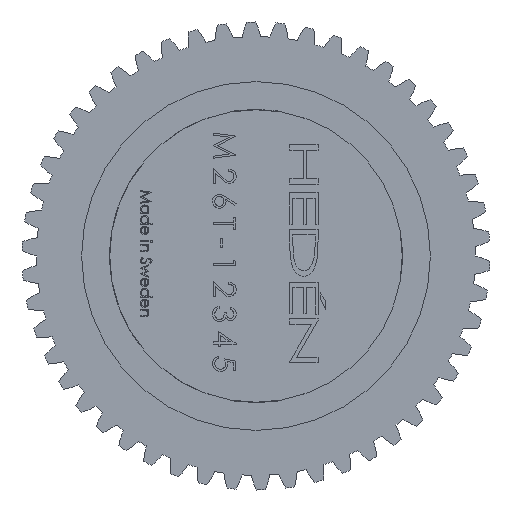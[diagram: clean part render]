
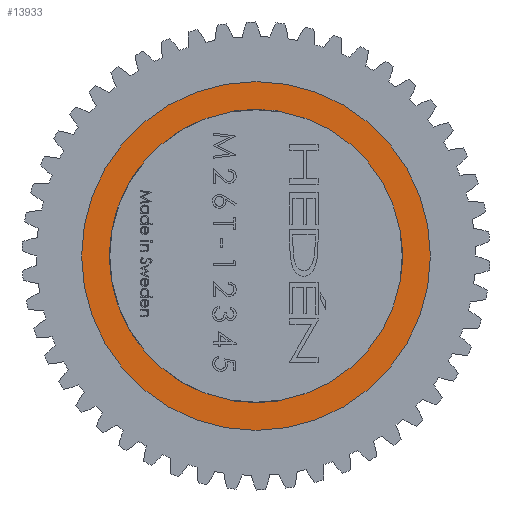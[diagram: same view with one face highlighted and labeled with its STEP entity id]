
A CAD part, front view. The second image highlights one B-rep face of the part: STEP entity #13933.
In plain terms, the highlighted planar face has unit normal (0, -1, 0).
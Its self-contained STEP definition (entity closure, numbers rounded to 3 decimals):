
#748 = CARTESIAN_POINT ( 'NONE',  ( 4.9, 43.25, 8.487 ) ) ;
#1275 = PLANE ( 'NONE',  #3564 ) ;
#1581 = EDGE_LOOP ( 'NONE', ( #8924 ) ) ;
#1692 = CARTESIAN_POINT ( 'NONE',  ( 0., 43.25, 0. ) ) ;
#2217 = CARTESIAN_POINT ( 'NONE',  ( -4.1, 43.25, -8.487 ) ) ;
#2282 = CARTESIAN_POINT ( 'NONE',  ( -9.8, 43.25, 0. ) ) ;
#2432 = AXIS2_PLACEMENT_3D ( 'NONE', #748, #36294, #26759 ) ;
#3282 = CIRCLE ( 'NONE', #20901, 0.8 ) ;
#3564 = AXIS2_PLACEMENT_3D ( 'NONE', #11979, #8746, #34230 ) ;
#3791 = FACE_BOUND ( 'NONE', #22629, .T. ) ;
#4070 = EDGE_LOOP ( 'NONE', ( #26069 ) ) ;
#4869 = DIRECTION ( 'NONE',  ( 0., -1., 0. ) ) ;
#4886 = AXIS2_PLACEMENT_3D ( 'NONE', #2282, #37847, #8490 ) ;
#6326 = EDGE_LOOP ( 'NONE', ( #18250 ) ) ;
#6429 = CIRCLE ( 'NONE', #37480, 5. ) ;
#7613 = CIRCLE ( 'NONE', #2432, 3. ) ;
#7937 = EDGE_CURVE ( 'NONE', #22809, #22809, #22165, .T. ) ;
#8133 = CARTESIAN_POINT ( 'NONE',  ( 9.8, 43.25, 0. ) ) ;
#8490 = DIRECTION ( 'NONE',  ( 1., 0., 0. ) ) ;
#8746 = DIRECTION ( 'NONE',  ( 0., 1., 0. ) ) ;
#8849 = CARTESIAN_POINT ( 'NONE',  ( 7.9, 43.25, -8.487 ) ) ;
#8924 = ORIENTED_EDGE ( 'NONE', *, *, #7937, .F. ) ;
#9137 = CARTESIAN_POINT ( 'NONE',  ( -4.1, 43.25, 8.487 ) ) ;
#9446 = FACE_OUTER_BOUND ( 'NONE', #39008, .T. ) ;
#9651 = ORIENTED_EDGE ( 'NONE', *, *, #39258, .F. ) ;
#9810 = EDGE_CURVE ( 'NONE', #15181, #15181, #7613, .T. ) ;
#9959 = CARTESIAN_POINT ( 'NONE',  ( 5., 43.25, 0. ) ) ;
#10363 = CIRCLE ( 'NONE', #29426, 0.8 ) ;
#10924 = FACE_BOUND ( 'NONE', #6326, .T. ) ;
#11933 = CARTESIAN_POINT ( 'NONE',  ( 10.6, 43.25, 0. ) ) ;
#11979 = CARTESIAN_POINT ( 'NONE',  ( 0., 43.25, 5. ) ) ;
#12490 = CIRCLE ( 'NONE', #4886, 3. ) ;
#12510 = ORIENTED_EDGE ( 'NONE', *, *, #24103, .F. ) ;
#12915 = FACE_BOUND ( 'NONE', #37826, .T. ) ;
#13401 = EDGE_LOOP ( 'NONE', ( #33847 ) ) ;
#13480 = EDGE_CURVE ( 'NONE', #26844, #26844, #12490, .T. ) ;
#13591 = CARTESIAN_POINT ( 'NONE',  ( 0., 43.25, 0. ) ) ;
#13933 = ADVANCED_FACE ( 'NONE', ( #10924, #18538, #15994, #18064, #21588, #3791, #12915, #9446 ), #1275, .F. ) ;
#14351 = AXIS2_PLACEMENT_3D ( 'NONE', #33504, #40616, #20657 ) ;
#14633 = DIRECTION ( 'NONE',  ( 0., -1., 0. ) ) ;
#14651 = VERTEX_POINT ( 'NONE', #9959 ) ;
#15181 = VERTEX_POINT ( 'NONE', #31343 ) ;
#15994 = FACE_BOUND ( 'NONE', #4070, .T. ) ;
#17218 = CIRCLE ( 'NONE', #25920, 15.5 ) ;
#17231 = VERTEX_POINT ( 'NONE', #2217 ) ;
#18064 = FACE_BOUND ( 'NONE', #1581, .T. ) ;
#18250 = ORIENTED_EDGE ( 'NONE', *, *, #9810, .F. ) ;
#18538 = FACE_BOUND ( 'NONE', #25428, .T. ) ;
#18773 = CARTESIAN_POINT ( 'NONE',  ( 15.5, 43.25, 0. ) ) ;
#20122 = CIRCLE ( 'NONE', #40697, 3. ) ;
#20657 = DIRECTION ( 'NONE',  ( 1., 0., 0. ) ) ;
#20694 = EDGE_CURVE ( 'NONE', #33411, #33411, #17218, .T. ) ;
#20837 = DIRECTION ( 'NONE',  ( 1., 0., 0. ) ) ;
#20901 = AXIS2_PLACEMENT_3D ( 'NONE', #33948, #37536, #30528 ) ;
#21588 = FACE_BOUND ( 'NONE', #13401, .T. ) ;
#22165 = CIRCLE ( 'NONE', #14351, 0.8 ) ;
#22629 = EDGE_LOOP ( 'NONE', ( #27125 ) ) ;
#22809 = VERTEX_POINT ( 'NONE', #9137 ) ;
#24103 = EDGE_CURVE ( 'NONE', #32926, #32926, #20122, .T. ) ;
#24504 = EDGE_CURVE ( 'NONE', #17231, #17231, #3282, .T. ) ;
#24977 = CARTESIAN_POINT ( 'NONE',  ( -6.8, 43.25, 0. ) ) ;
#25067 = DIRECTION ( 'NONE',  ( 0., -1., 0. ) ) ;
#25428 = EDGE_LOOP ( 'NONE', ( #12510 ) ) ;
#25920 = AXIS2_PLACEMENT_3D ( 'NONE', #13591, #36449, #39461 ) ;
#26069 = ORIENTED_EDGE ( 'NONE', *, *, #13480, .F. ) ;
#26359 = ORIENTED_EDGE ( 'NONE', *, *, #20694, .T. ) ;
#26759 = DIRECTION ( 'NONE',  ( 1., 0., 0. ) ) ;
#26844 = VERTEX_POINT ( 'NONE', #24977 ) ;
#26953 = EDGE_CURVE ( 'NONE', #34970, #34970, #10363, .T. ) ;
#27125 = ORIENTED_EDGE ( 'NONE', *, *, #26953, .F. ) ;
#29426 = AXIS2_PLACEMENT_3D ( 'NONE', #8133, #14633, #37360 ) ;
#30422 = CARTESIAN_POINT ( 'NONE',  ( 4.9, 43.25, -8.487 ) ) ;
#30528 = DIRECTION ( 'NONE',  ( 1., 0., 0. ) ) ;
#31343 = CARTESIAN_POINT ( 'NONE',  ( 7.9, 43.25, 8.487 ) ) ;
#32926 = VERTEX_POINT ( 'NONE', #8849 ) ;
#33411 = VERTEX_POINT ( 'NONE', #18773 ) ;
#33504 = CARTESIAN_POINT ( 'NONE',  ( -4.9, 43.25, 8.487 ) ) ;
#33847 = ORIENTED_EDGE ( 'NONE', *, *, #24504, .F. ) ;
#33948 = CARTESIAN_POINT ( 'NONE',  ( -4.9, 43.25, -8.487 ) ) ;
#33951 = DIRECTION ( 'NONE',  ( 1., 0., 0. ) ) ;
#34230 = DIRECTION ( 'NONE',  ( -1., 0., 0. ) ) ;
#34970 = VERTEX_POINT ( 'NONE', #11933 ) ;
#36294 = DIRECTION ( 'NONE',  ( 0., -1., 0. ) ) ;
#36449 = DIRECTION ( 'NONE',  ( 0., -1., 0. ) ) ;
#37360 = DIRECTION ( 'NONE',  ( 1., 0., 0. ) ) ;
#37480 = AXIS2_PLACEMENT_3D ( 'NONE', #1692, #4869, #33951 ) ;
#37536 = DIRECTION ( 'NONE',  ( 0., -1., 0. ) ) ;
#37826 = EDGE_LOOP ( 'NONE', ( #9651 ) ) ;
#37847 = DIRECTION ( 'NONE',  ( 0., -1., 0. ) ) ;
#39008 = EDGE_LOOP ( 'NONE', ( #26359 ) ) ;
#39258 = EDGE_CURVE ( 'NONE', #14651, #14651, #6429, .T. ) ;
#39461 = DIRECTION ( 'NONE',  ( 1., 0., 0. ) ) ;
#40616 = DIRECTION ( 'NONE',  ( 0., -1., 0. ) ) ;
#40697 = AXIS2_PLACEMENT_3D ( 'NONE', #30422, #25067, #20837 ) ;
